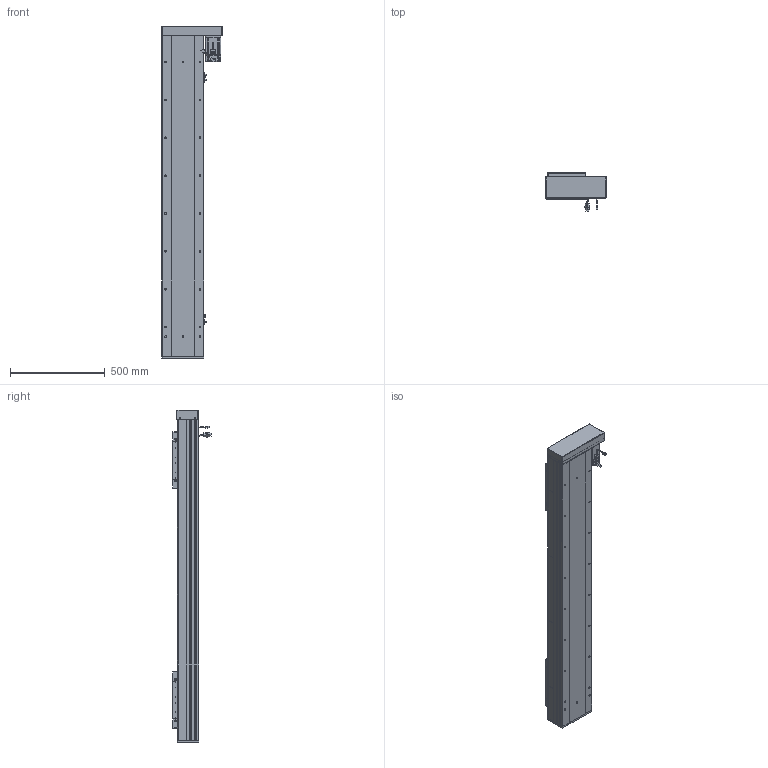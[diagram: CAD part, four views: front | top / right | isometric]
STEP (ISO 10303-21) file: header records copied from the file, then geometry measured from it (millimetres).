
FILE_DESCRIPTION (( 'STEP AP203' ), '1' );
FILE_NAME ('RY220F-L2525-800-RK-邧嶺.SLDASM_1250.step', '2022-08-06T08:19:19', ( '' ), ( '' ), 'SwSTEP 2.0', 'SolidWorks 2016', '' );
FILE_SCHEMA (( 'CONFIG_CONTROL_DESIGN' ));
Length unit declared in the file: millimetre
Products named in the file (15): RY220F-滅鳥奻裔; RY220F-祥凄詩湍-蛌殏-800_1250; RY220F-詩湍揤踡輸; 滅袉蝶18-24; RY220左右折电机安装板; RY220F蛌殏菁釱-800-邧嶺_1250; RY220F-L2525-800-RK-邧嶺.SLDASM_1250; RY220F-蛌殏奻裔啣-800_1250; RY220F臏賑釱25-32佪裝; 覜茼ん672; RY220F-672覜茼んえ; RY220F綴裔啣; 侐源滅袉蝶; 怢湛750W_ECMA-CX0807ES; RY220酘衵殏萇儂欶
Assembly tree (24 placements, depth 2):
  RY220F-L2525-800-RK-邧嶺.SLDASM_1250
    RY220F蛌殏菁釱-800-邧嶺_1250
    RY220F-蛌殏奻裔啣-800_1250  x2
    怢湛750W_ECMA-CX0807ES
    RY220F臏賑釱25-32佪裝  x2
    RY220F-滅鳥奻裔  x2
    滅袉蝶18-24  x3
    RY220F綴裔啣
    RY220F-祥凄詩湍-蛌殏-800_1250
    RY220F-詩湍揤踡輸  x2
    覜茼ん672  x3
    RY220F-672覜茼んえ  x2
    RY220左右折电机安装板
    RY220酘衵殏萇儂欶
    侐源滅袉蝶  x2
Bounding box: 317.5 x 205.27 x 1753 mm (x, y, z)
Volume: 16276021 mm3; surface area: 4286663.9 mm2
Topology: 25 solids, 25 shells, 2800 faces, 7612 edges, 4704 vertices
Faces by surface type: cylinder 1266, plane 1044, cone 419, bspline 45, sphere 16, torus 10
Entity records: 69564 total; most frequent: CARTESIAN_POINT 18789, ORIENTED_EDGE 10246, DIRECTION 10000, EDGE_CURVE 5123, AXIS2_PLACEMENT_3D 3566, VERTEX_POINT 3320, VECTOR 2868, LINE 2868
